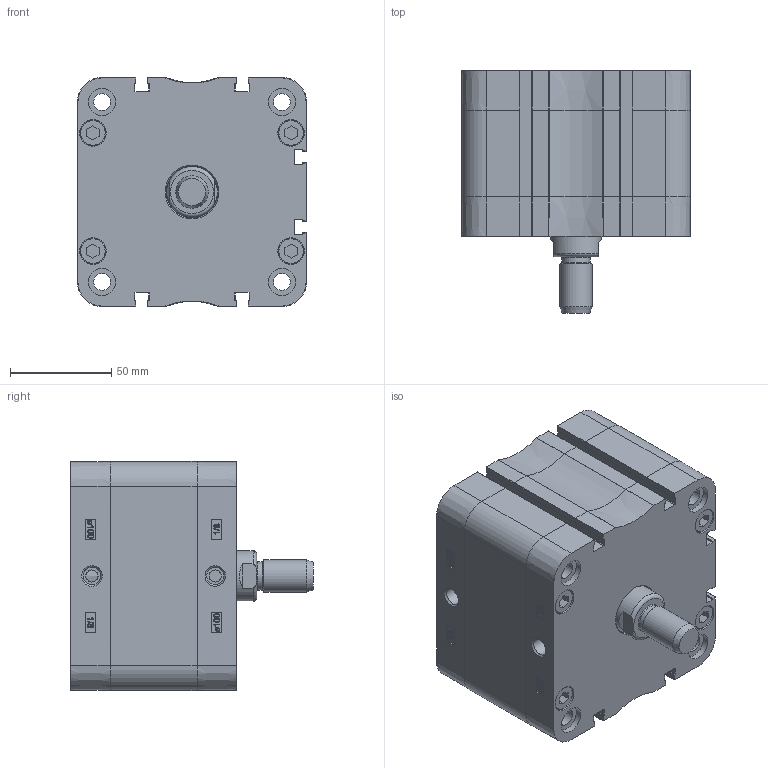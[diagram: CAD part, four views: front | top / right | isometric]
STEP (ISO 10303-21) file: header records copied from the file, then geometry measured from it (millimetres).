
FILE_DESCRIPTION((''),'2;1');
FILE_NAME('T:\Archivio Inventor\- CATALOGHI 2012\SERIE P - NUOVA\PDM\PDM100\PDM100.---.GS.M\PDM100.015.GS.M.stp','2013-02-05T11:37:55',('Administrator'),(''),'Autodesk Inventor 2012','Autodesk Inventor 2012','');
FILE_SCHEMA(('CONFIG_CONTROL_DESIGN'));
Length unit declared in the file: millimetre
Products named in the file (1): PDM100.015.GS.M
Bounding box: 113.3 x 120 x 113.3 mm (x, y, z)
Volume: 546590.4 mm3; surface area: 150697.7 mm2
Topology: 1 solids, 5 shells, 908 faces, 2136 edges, 1312 vertices
Faces by surface type: plane 371, bspline 226, cylinder 148, cone 81, torus 58, sphere 24
Full cylindrical faces by diameter (mm): 6 x2, 8.3 x4, 8.376 x8, 8.566 x2, 9.976 x4, 12 x1, 12.7 x8, 13.1 x8, 13.5 x8, 14 x1, 16 x1, 25 x1, 25.5 x1, 100 x1, 103.5 x1, 103.7 x1
Entity records: 29567 total; most frequent: CARTESIAN_POINT 9699, ORIENTED_EDGE 4030, DIRECTION 3400, EDGE_CURVE 2015, VERTEX_POINT 1291, AXIS2_PLACEMENT_3D 1208, EDGE_LOOP 1088, VECTOR 984
